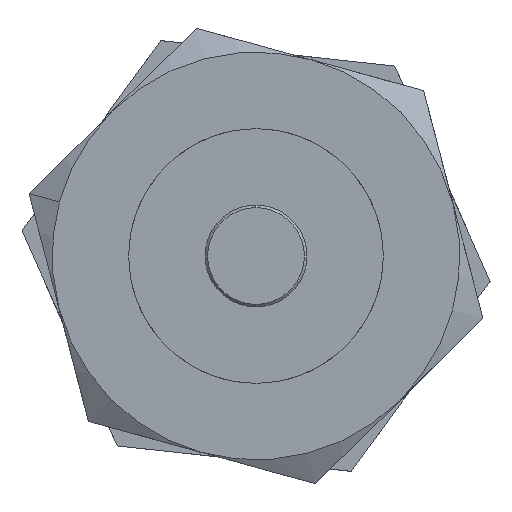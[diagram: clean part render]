
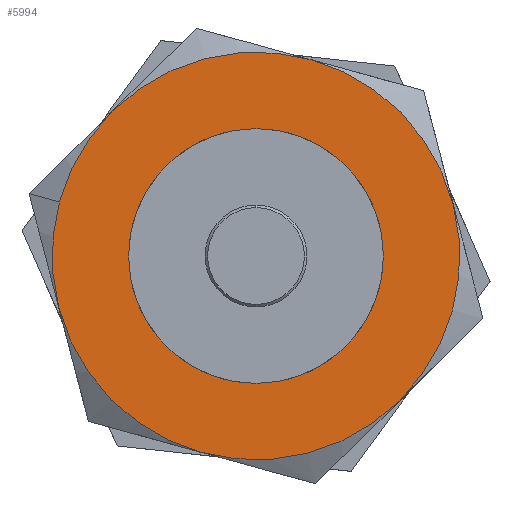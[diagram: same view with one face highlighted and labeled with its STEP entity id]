
A CAD part, front view. The second image highlights one B-rep face of the part: STEP entity #5994.
In plain terms, the highlighted planar face has unit normal (0, -1, 0).
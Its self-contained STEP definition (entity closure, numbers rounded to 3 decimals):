
#5 = EDGE_LOOP ( 'NONE', ( #7563, #5700, #849, #7053, #11118, #7681, #1904 ) ) ;
#214 = VERTEX_POINT ( 'NONE', #6809 ) ;
#222 = CARTESIAN_POINT ( 'NONE',  ( 4., -50., 1.5 ) ) ;
#229 = AXIS2_PLACEMENT_3D ( 'NONE', #10492, #5207, #11388 ) ;
#370 = EDGE_CURVE ( 'NONE', #8793, #8465, #7777, .T. ) ;
#412 = EDGE_CURVE ( 'NONE', #5655, #793, #8183, .T. ) ;
#793 = VERTEX_POINT ( 'NONE', #7232 ) ;
#849 = ORIENTED_EDGE ( 'NONE', *, *, #9612, .F. ) ;
#859 = EDGE_CURVE ( 'NONE', #8465, #8793, #8836, .T. ) ;
#1120 = DIRECTION ( 'NONE',  ( 0.265, 0., 0.964 ) ) ;
#1904 = ORIENTED_EDGE ( 'NONE', *, *, #6779, .F. ) ;
#1954 = DIRECTION ( 'NONE',  ( 0., 1., 0. ) ) ;
#2173 = CARTESIAN_POINT ( 'NONE',  ( 4., -50., 1.5 ) ) ;
#2539 = CIRCLE ( 'NONE', #6320, 8. ) ;
#2974 = AXIS2_PLACEMENT_3D ( 'NONE', #10318, #5016, #11208 ) ;
#3079 = DIRECTION ( 'NONE',  ( -0.964, 0., 0.265 ) ) ;
#3810 = CARTESIAN_POINT ( 'NONE',  ( 4., -50., 1.5 ) ) ;
#3822 = CIRCLE ( 'NONE', #6147, 8. ) ;
#4008 = EDGE_CURVE ( 'NONE', #793, #4245, #5595, .T. ) ;
#4149 = CIRCLE ( 'NONE', #9733, 8. ) ;
#4245 = VERTEX_POINT ( 'NONE', #5481 ) ;
#4307 = EDGE_CURVE ( 'NONE', #11259, #214, #6410, .T. ) ;
#4706 = DIRECTION ( 'NONE',  ( -0.964, 0., 0.265 ) ) ;
#4806 = ORIENTED_EDGE ( 'NONE', *, *, #370, .T. ) ;
#4869 = DIRECTION ( 'NONE',  ( 0., 1., 0. ) ) ;
#5016 = DIRECTION ( 'NONE',  ( 0., 1., 0. ) ) ;
#5104 = FACE_OUTER_BOUND ( 'NONE', #5, .T. ) ;
#5207 = DIRECTION ( 'NONE',  ( 0., -1., 0. ) ) ;
#5287 = DIRECTION ( 'NONE',  ( 0., 1., 0. ) ) ;
#5407 = FACE_BOUND ( 'NONE', #7185, .T. ) ;
#5481 = CARTESIAN_POINT ( 'NONE',  ( 1.881, -50., -6.214 ) ) ;
#5554 = AXIS2_PLACEMENT_3D ( 'NONE', #6374, #6409, #6488 ) ;
#5595 = CIRCLE ( 'NONE', #2974, 8. ) ;
#5655 = VERTEX_POINT ( 'NONE', #9063 ) ;
#5700 = ORIENTED_EDGE ( 'NONE', *, *, #11181, .F. ) ;
#5933 = CARTESIAN_POINT ( 'NONE',  ( -3.714, -50., 3.619 ) ) ;
#5994 = ADVANCED_FACE ( 'NONE', ( #5104, #5407 ), #7827, .T. ) ;
#6147 = AXIS2_PLACEMENT_3D ( 'NONE', #10175, #4869, #11064 ) ;
#6283 = DIRECTION ( 'NONE',  ( 0.265, 0., 0.964 ) ) ;
#6320 = AXIS2_PLACEMENT_3D ( 'NONE', #3810, #9996, #4706 ) ;
#6374 = CARTESIAN_POINT ( 'NONE',  ( 4., -50., 1.5 ) ) ;
#6409 = DIRECTION ( 'NONE',  ( 0., 1., 0. ) ) ;
#6410 = CIRCLE ( 'NONE', #11445, 8. ) ;
#6432 = DIRECTION ( 'NONE',  ( 0., 1., 0. ) ) ;
#6488 = DIRECTION ( 'NONE',  ( 0.265, 0., 0.964 ) ) ;
#6779 = EDGE_CURVE ( 'NONE', #214, #5655, #11149, .T. ) ;
#6809 = CARTESIAN_POINT ( 'NONE',  ( 6.119, -50., 9.214 ) ) ;
#7053 = ORIENTED_EDGE ( 'NONE', *, *, #8049, .F. ) ;
#7185 = EDGE_LOOP ( 'NONE', ( #10018, #4806 ) ) ;
#7232 = CARTESIAN_POINT ( 'NONE',  ( 9.621, -50., -4.193 ) ) ;
#7280 = CARTESIAN_POINT ( 'NONE',  ( 4., -50., 1.5 ) ) ;
#7563 = ORIENTED_EDGE ( 'NONE', *, *, #4307, .F. ) ;
#7645 = CARTESIAN_POINT ( 'NONE',  ( 2.675, -50., -3.321 ) ) ;
#7681 = ORIENTED_EDGE ( 'NONE', *, *, #412, .F. ) ;
#7777 = CIRCLE ( 'NONE', #11093, 5. ) ;
#7827 = PLANE ( 'NONE',  #229 ) ;
#8049 = EDGE_CURVE ( 'NONE', #4245, #8988, #2539, .T. ) ;
#8055 = DIRECTION ( 'NONE',  ( 0.265, 0., 0.964 ) ) ;
#8183 = CIRCLE ( 'NONE', #5554, 8. ) ;
#8188 = DIRECTION ( 'NONE',  ( -0.964, 0., 0.265 ) ) ;
#8263 = VERTEX_POINT ( 'NONE', #5933 ) ;
#8385 = DIRECTION ( 'NONE',  ( 0., 1., 0. ) ) ;
#8465 = VERTEX_POINT ( 'NONE', #9827 ) ;
#8793 = VERTEX_POINT ( 'NONE', #7645 ) ;
#8836 = CIRCLE ( 'NONE', #9731, 5. ) ;
#8988 = VERTEX_POINT ( 'NONE', #9699 ) ;
#9063 = CARTESIAN_POINT ( 'NONE',  ( 11.74, -50., 3.522 ) ) ;
#9612 = EDGE_CURVE ( 'NONE', #8988, #8263, #3822, .T. ) ;
#9673 = CARTESIAN_POINT ( 'NONE',  ( 4., -50., 1.5 ) ) ;
#9699 = CARTESIAN_POINT ( 'NONE',  ( -3.74, -50., -0.522 ) ) ;
#9731 = AXIS2_PLACEMENT_3D ( 'NONE', #9673, #11455, #6283 ) ;
#9733 = AXIS2_PLACEMENT_3D ( 'NONE', #2173, #8385, #3079 ) ;
#9827 = CARTESIAN_POINT ( 'NONE',  ( 5.325, -50., 6.321 ) ) ;
#9996 = DIRECTION ( 'NONE',  ( 0., 1., 0. ) ) ;
#10018 = ORIENTED_EDGE ( 'NONE', *, *, #859, .T. ) ;
#10175 = CARTESIAN_POINT ( 'NONE',  ( 4., -50., 1.5 ) ) ;
#10318 = CARTESIAN_POINT ( 'NONE',  ( 4., -50., 1.5 ) ) ;
#10445 = CARTESIAN_POINT ( 'NONE',  ( 4., -50., 1.5 ) ) ;
#10492 = CARTESIAN_POINT ( 'NONE',  ( 12.908, -50., -0.947 ) ) ;
#10902 = CARTESIAN_POINT ( 'NONE',  ( -1.621, -50., 7.193 ) ) ;
#11064 = DIRECTION ( 'NONE',  ( -0.964, 0., 0.265 ) ) ;
#11093 = AXIS2_PLACEMENT_3D ( 'NONE', #10445, #5287, #8055 ) ;
#11118 = ORIENTED_EDGE ( 'NONE', *, *, #4008, .F. ) ;
#11149 = CIRCLE ( 'NONE', #11484, 8. ) ;
#11181 = EDGE_CURVE ( 'NONE', #8263, #11259, #4149, .T. ) ;
#11208 = DIRECTION ( 'NONE',  ( -0.964, 0., 0.265 ) ) ;
#11259 = VERTEX_POINT ( 'NONE', #10902 ) ;
#11388 = DIRECTION ( 'NONE',  ( -0.265, 0., -0.964 ) ) ;
#11445 = AXIS2_PLACEMENT_3D ( 'NONE', #222, #6432, #1120 ) ;
#11455 = DIRECTION ( 'NONE',  ( 0., 1., 0. ) ) ;
#11484 = AXIS2_PLACEMENT_3D ( 'NONE', #7280, #1954, #8188 ) ;
